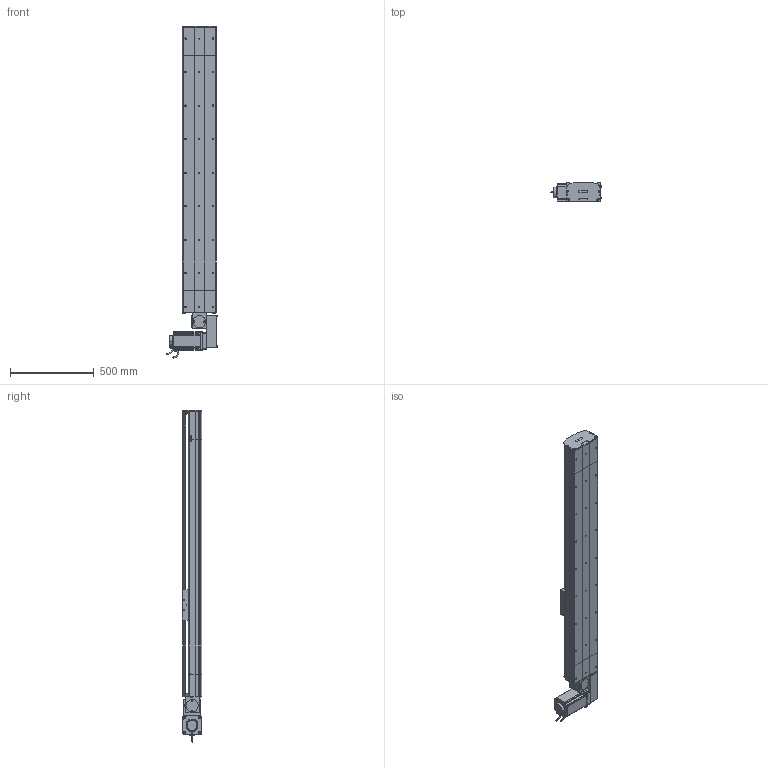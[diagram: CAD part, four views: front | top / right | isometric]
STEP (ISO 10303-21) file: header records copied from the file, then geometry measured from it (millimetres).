
FILE_DESCRIPTION (( 'STEP AP214' ), '1' );
FILE_NAME ('D20 TBH LH S1400.STEP', '2010-07-01T07:21:48', ( 'Conseil Régional Haute-Normandie' ), ( 'Conseil Régional Haute-Normandie' ), 'SwSTEP 2.0', 'SolidWorks 2010', '' );
FILE_SCHEMA (( 'AUTOMOTIVE_DESIGN' ));
Length unit declared in the file: millimetre
Products named in the file (40): avant 110BLDC170A-630x; tail D20_Default; vis M8 L12_Default; clavette; Couroie tail D20_Default; plaque de  bout tail D20_Default; poulie tail D20_Default; corpl tail D20_Default; vis M5 L12_Default; tete d''axe poulie D20B; couvercle tail D20_Default; rail tail D20; vis M5 L8 90°_Default; vis M5 L25_Default; Conecteur_Default; Plaque racord D20LH_Default; Renvoi LH D20_Default; vis M5 L5_Default; cache D20_Default; cache arbre D20_Default; couroie_Default; plaque de  bout head D20B LH_Default; poulie head D20_Default; couvercle head D20_Default; Course B L1400_Default; rail head D20; corpl head D20_Default; corp D20 S1400_Default; vis M5 L70_Default; head LH_Default; rail + couroie  D20 S1400; couvercle D20 S1400_Default; Moteur motionking 110BLDC170A-640x; D20 TBH LH S1400; chariot D20B_Default; corps 110BLDC170A-630x; Chariot D20B; guide D20B; Conecteur2_Default; codeur 110BLDC170A-630x
Assembly tree (71 placements, depth 4):
  D20 TBH LH S1400
    tail D20_Default
      corpl tail D20_Default
      vis M5 L12_Default  x4
      vis M5 L25_Default  x2
      tete d''axe poulie D20B
      vis M5 L8 90°_Default  x2
      rail tail D20
      plaque de  bout tail D20_Default
      poulie tail D20_Default
      couvercle tail D20_Default
      Couroie tail D20_Default
    Course B L1400_Default
      rail + couroie  D20 S1400
      couvercle D20 S1400_Default
      corp D20 S1400_Default
    head LH_Default
      vis M8 L12_Default  x4
      poulie head D20_Default
      cache arbre D20_Default
      vis M5 L12_Default  x10
      vis M5 L70_Default  x4
      Renvoi LH D20_Default
      vis M5 L5_Default  x4
      cache D20_Default  x2
      couroie_Default
      vis M5 L25_Default  x2
      plaque de  bout head D20B LH_Default
      corpl head D20_Default
      couvercle head D20_Default
      rail head D20
      Plaque racord D20LH_Default
      Moteur motionking 110BLDC170A-640x
        corps 110BLDC170A-630x
        Conecteur_Default
        codeur 110BLDC170A-630x
        avant 110BLDC170A-630x
        clavette
        Conecteur2_Default
    chariot D20B_Default
      vis M5 L12_Default  x4
      Chariot D20B
      guide D20B  x2
Bounding box: 304.2 x 115.7 x 1980 mm (x, y, z)
Volume: 16183860.9 mm3; surface area: 3810647.9 mm2
Topology: 95 solids, 95 shells, 2723 faces, 6843 edges, 4413 vertices
Faces by surface type: plane 1616, cylinder 783, bspline 136, cone 99, torus 89
Entity records: 85092 total; most frequent: CARTESIAN_POINT 27119, ORIENTED_EDGE 10342, DIRECTION 9798, EDGE_CURVE 5171, VERTEX_POINT 3399, VECTOR 3390, LINE 3390, AXIS2_PLACEMENT_3D 3204
